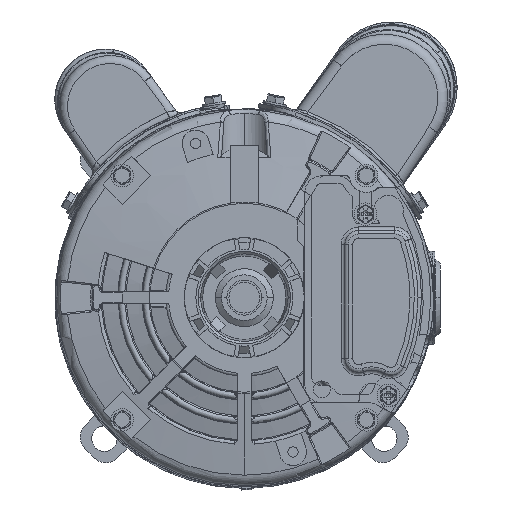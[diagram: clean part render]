
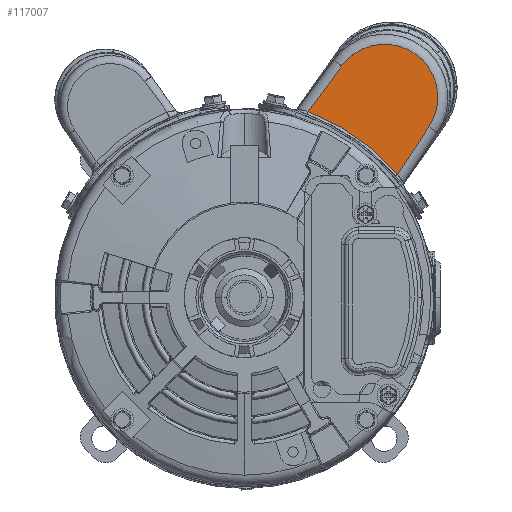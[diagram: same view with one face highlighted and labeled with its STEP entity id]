
A CAD part, top view. The second image highlights one B-rep face of the part: STEP entity #117007.
In plain terms, the highlighted planar face has unit normal (0, 0, 1).
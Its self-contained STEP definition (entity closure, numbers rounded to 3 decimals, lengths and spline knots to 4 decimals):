
#9657 = CARTESIAN_POINT ( 'NONE',  ( 1.4456, 3.4408, 10.2516 ) ) ;
#10601 = VERTEX_POINT ( 'NONE', #20210 ) ;
#17015 = LINE ( 'NONE', #49613, #79591 ) ;
#20210 = CARTESIAN_POINT ( 'NONE',  ( 2.2721, 1.8355, 10.2516 ) ) ;
#21197 = DIRECTION ( 'NONE',  ( 0.555, 0.832, 0. ) ) ;
#31036 = EDGE_CURVE ( 'NONE', #89797, #79859, #62947, .T. ) ;
#34927 = FACE_OUTER_BOUND ( 'NONE', #88796, .T. ) ;
#35774 = ORIENTED_EDGE ( 'NONE', *, *, #72422, .T. ) ;
#38479 = DIRECTION ( 'NONE',  ( 0.819, -0.574, 0. ) ) ;
#43759 = EDGE_CURVE ( 'NONE', #10601, #89797, #88483, .T. ) ;
#46719 = AXIS2_PLACEMENT_3D ( 'NONE', #75426, #93810, #103455 ) ;
#49613 = CARTESIAN_POINT ( 'NONE',  ( 0.8792, 2.6696, 10.2516 ) ) ;
#54462 = DIRECTION ( 'NONE',  ( 0., 0., 1. ) ) ;
#60916 = CARTESIAN_POINT ( 'NONE',  ( 2.7389, 2.5352, 10.2516 ) ) ;
#61548 = ORIENTED_EDGE ( 'NONE', *, *, #122859, .T. ) ;
#62947 = CIRCLE ( 'NONE', #84670, 0.7896 ) ;
#72422 = EDGE_CURVE ( 'NONE', #79859, #89284, #17015, .T. ) ;
#75426 = CARTESIAN_POINT ( 'NONE',  ( -0.2353, -0.336, 10.2516 ) ) ;
#77087 = AXIS2_PLACEMENT_3D ( 'NONE', #99271, #89188, #38479 ) ;
#79118 = PLANE ( 'NONE',  #77087 ) ;
#79591 = VECTOR ( 'NONE', #99064, 39.3701 ) ;
#79859 = VERTEX_POINT ( 'NONE', #9657 ) ;
#84670 = AXIS2_PLACEMENT_3D ( 'NONE', #85069, #54462, #115253 ) ;
#85069 = CARTESIAN_POINT ( 'NONE',  ( 2.082, 2.9734, 10.2516 ) ) ;
#87928 = ORIENTED_EDGE ( 'NONE', *, *, #43759, .T. ) ;
#88483 = LINE ( 'NONE', #119650, #91568 ) ;
#88796 = EDGE_LOOP ( 'NONE', ( #35774, #61548, #87928, #124405 ) ) ;
#89188 = DIRECTION ( 'NONE',  ( 0., 0., 1. ) ) ;
#89284 = VERTEX_POINT ( 'NONE', #97907 ) ;
#89797 = VERTEX_POINT ( 'NONE', #60916 ) ;
#91568 = VECTOR ( 'NONE', #21197, 39.3701 ) ;
#93810 = DIRECTION ( 'NONE',  ( 0., 0., -1. ) ) ;
#97907 = CARTESIAN_POINT ( 'NONE',  ( 0.9477, 2.7629, 10.2516 ) ) ;
#99064 = DIRECTION ( 'NONE',  ( -0.592, -0.806, 0. ) ) ;
#99271 = CARTESIAN_POINT ( 'NONE',  ( -0.2353, -0.336, 10.2516 ) ) ;
#99741 = CIRCLE ( 'NONE', #46719, 3.317 ) ;
#103455 = DIRECTION ( 'NONE',  ( 0.819, -0.574, 0. ) ) ;
#115253 = DIRECTION ( 'NONE',  ( 0.819, -0.574, 0. ) ) ;
#117007 = ADVANCED_FACE ( 'NONE', ( #34927 ), #79118, .T. ) ;
#119650 = CARTESIAN_POINT ( 'NONE',  ( 2.7389, 2.5352, 10.2516 ) ) ;
#122859 = EDGE_CURVE ( 'NONE', #89284, #10601, #99741, .T. ) ;
#124405 = ORIENTED_EDGE ( 'NONE', *, *, #31036, .T. ) ;
